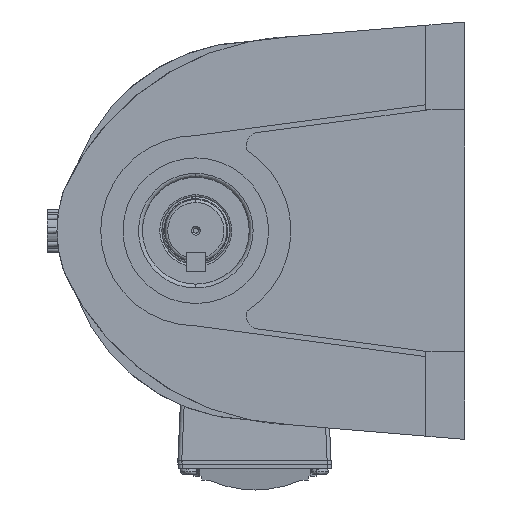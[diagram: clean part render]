
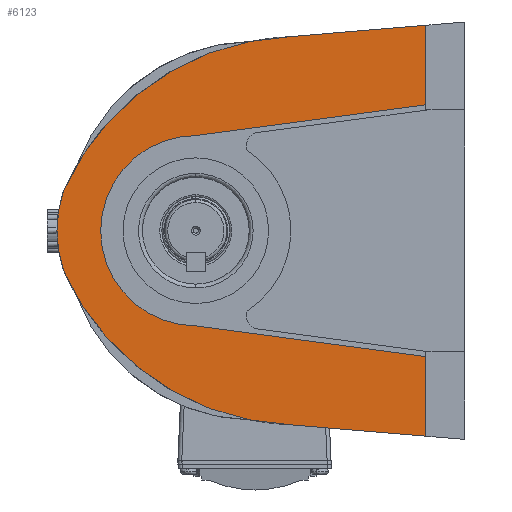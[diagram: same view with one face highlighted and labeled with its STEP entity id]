
A CAD part, left-side view. The second image highlights one B-rep face of the part: STEP entity #6123.
In plain terms, the highlighted planar face has unit normal (-1, 0, 0).
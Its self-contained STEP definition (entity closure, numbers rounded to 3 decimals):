
#632 = LINE ( 'NONE', #24110, #16438 ) ;
#790 = VERTEX_POINT ( 'NONE', #1918 ) ;
#810 = DIRECTION ( 'NONE',  ( 0., -0.991, -0.132 ) ) ;
#1105 = CARTESIAN_POINT ( 'NONE',  ( 13., 206.78, -20.204 ) ) ;
#1918 = CARTESIAN_POINT ( 'NONE',  ( 13., 206.78, 20.204 ) ) ;
#3257 = AXIS2_PLACEMENT_3D ( 'NONE', #82170, #81682, #81619 ) ;
#5070 = VECTOR ( 'NONE', #18327, 1000. ) ;
#5970 = CIRCLE ( 'NONE', #6458, 65. ) ;
#6123 = ADVANCED_FACE ( 'NONE', ( #63367 ), #81786, .F. ) ;
#6458 = AXIS2_PLACEMENT_3D ( 'NONE', #30843, #77007, #37501 ) ;
#6540 = CARTESIAN_POINT ( 'NONE',  ( 13., 0., -107.5 ) ) ;
#7991 = VERTEX_POINT ( 'NONE', #16165 ) ;
#11336 = ORIENTED_EDGE ( 'NONE', *, *, #45024, .F. ) ;
#16165 = CARTESIAN_POINT ( 'NONE',  ( 13., 20., 64.829 ) ) ;
#16438 = VECTOR ( 'NONE', #50565, 1000. ) ;
#17406 = AXIS2_PLACEMENT_3D ( 'NONE', #65871, #65778, #65758 ) ;
#17514 = EDGE_CURVE ( 'NONE', #34117, #18984, #18490, .T. ) ;
#18327 = DIRECTION ( 'NONE',  ( 0., 0.991, -0.132 ) ) ;
#18490 = CIRCLE ( 'NONE', #52503, 49. ) ;
#18984 = VERTEX_POINT ( 'NONE', #71089 ) ;
#19161 = EDGE_CURVE ( 'NONE', #790, #23414, #32131, .T. ) ;
#21437 = ORIENTED_EDGE ( 'NONE', *, *, #17514, .F. ) ;
#23323 = ORIENTED_EDGE ( 'NONE', *, *, #53853, .T. ) ;
#23414 = VERTEX_POINT ( 'NONE', #32948 ) ;
#24110 = CARTESIAN_POINT ( 'NONE',  ( 13., 0., 107.5 ) ) ;
#26781 = VECTOR ( 'NONE', #810, 1000. ) ;
#27400 = EDGE_CURVE ( 'NONE', #7991, #34117, #72789, .T. ) ;
#28984 = ORIENTED_EDGE ( 'NONE', *, *, #54950, .F. ) ;
#29578 = VERTEX_POINT ( 'NONE', #39833 ) ;
#29960 = AXIS2_PLACEMENT_3D ( 'NONE', #75545, #36084, #82218 ) ;
#30815 = CARTESIAN_POINT ( 'NONE',  ( 13., 20., 105.822 ) ) ;
#30843 = CARTESIAN_POINT ( 'NONE',  ( 13., 145., 0. ) ) ;
#32131 = CIRCLE ( 'NONE', #17406, 133.82 ) ;
#32948 = CARTESIAN_POINT ( 'NONE',  ( 13., 89.685, 99.974 ) ) ;
#34117 = VERTEX_POINT ( 'NONE', #74658 ) ;
#35066 = ORIENTED_EDGE ( 'NONE', *, *, #19161, .F. ) ;
#36084 = DIRECTION ( 'NONE',  ( 1., 0., 0. ) ) ;
#37234 = DIRECTION ( 'NONE',  ( 0., 0., -1. ) ) ;
#37330 = DIRECTION ( 'NONE',  ( -1., 0., 0. ) ) ;
#37501 = DIRECTION ( 'NONE',  ( 0., 0., 1. ) ) ;
#37522 = CARTESIAN_POINT ( 'NONE',  ( 13., 138.5, 0. ) ) ;
#37810 = EDGE_LOOP ( 'NONE', ( #11336, #28984, #67478, #70158, #43267, #21437, #70643, #67270, #23323, #35066 ) ) ;
#39833 = CARTESIAN_POINT ( 'NONE',  ( 13., 20., -105.822 ) ) ;
#39889 = VECTOR ( 'NONE', #46551, 1000. ) ;
#40479 = EDGE_CURVE ( 'NONE', #40629, #7991, #59491, .T. ) ;
#40629 = VERTEX_POINT ( 'NONE', #30815 ) ;
#41005 = CARTESIAN_POINT ( 'NONE',  ( 13., 138.5, -49. ) ) ;
#43267 = ORIENTED_EDGE ( 'NONE', *, *, #86051, .F. ) ;
#45024 = EDGE_CURVE ( 'NONE', #78641, #790, #5970, .T. ) ;
#45487 = VERTEX_POINT ( 'NONE', #67187 ) ;
#46551 = DIRECTION ( 'NONE',  ( 0., -0.996, -0.084 ) ) ;
#46599 = CIRCLE ( 'NONE', #29960, 133.82 ) ;
#46708 = DIRECTION ( 'NONE',  ( 0., 0., -1. ) ) ;
#46842 = CARTESIAN_POINT ( 'NONE',  ( 13., 20., -64.829 ) ) ;
#47331 = EDGE_CURVE ( 'NONE', #57871, #29578, #68510, .T. ) ;
#50565 = DIRECTION ( 'NONE',  ( 0., 0.996, -0.084 ) ) ;
#52503 = AXIS2_PLACEMENT_3D ( 'NONE', #37522, #37330, #37234 ) ;
#53853 = EDGE_CURVE ( 'NONE', #40629, #23414, #632, .T. ) ;
#54950 = EDGE_CURVE ( 'NONE', #45487, #78641, #46599, .T. ) ;
#57871 = VERTEX_POINT ( 'NONE', #46842 ) ;
#57948 = DIRECTION ( 'NONE',  ( 0., 0., -1. ) ) ;
#58149 = CARTESIAN_POINT ( 'NONE',  ( 13., 20., 64.829 ) ) ;
#59491 = LINE ( 'NONE', #59705, #59640 ) ;
#59549 = LINE ( 'NONE', #6540, #39889 ) ;
#59640 = VECTOR ( 'NONE', #46708, 1000. ) ;
#59705 = CARTESIAN_POINT ( 'NONE',  ( 13., 20., 0. ) ) ;
#59706 = CARTESIAN_POINT ( 'NONE',  ( 13., 20., 0. ) ) ;
#59963 = LINE ( 'NONE', #41005, #26781 ) ;
#60313 = EDGE_CURVE ( 'NONE', #45487, #29578, #59549, .T. ) ;
#63367 = FACE_OUTER_BOUND ( 'NONE', #37810, .T. ) ;
#65758 = DIRECTION ( 'NONE',  ( 0., 0., 1. ) ) ;
#65778 = DIRECTION ( 'NONE',  ( 1., 0., 0. ) ) ;
#65871 = CARTESIAN_POINT ( 'NONE',  ( 13., 84.313, -33.738 ) ) ;
#67187 = CARTESIAN_POINT ( 'NONE',  ( 13., 89.685, -99.974 ) ) ;
#67270 = ORIENTED_EDGE ( 'NONE', *, *, #40479, .F. ) ;
#67478 = ORIENTED_EDGE ( 'NONE', *, *, #60313, .T. ) ;
#68510 = LINE ( 'NONE', #59706, #86108 ) ;
#70158 = ORIENTED_EDGE ( 'NONE', *, *, #47331, .F. ) ;
#70643 = ORIENTED_EDGE ( 'NONE', *, *, #27400, .F. ) ;
#71089 = CARTESIAN_POINT ( 'NONE',  ( 13., 138.5, -49. ) ) ;
#72789 = LINE ( 'NONE', #58149, #5070 ) ;
#74658 = CARTESIAN_POINT ( 'NONE',  ( 13., 138.5, 49. ) ) ;
#75545 = CARTESIAN_POINT ( 'NONE',  ( 13., 84.313, 33.738 ) ) ;
#77007 = DIRECTION ( 'NONE',  ( 1., 0., 0. ) ) ;
#78641 = VERTEX_POINT ( 'NONE', #1105 ) ;
#81619 = DIRECTION ( 'NONE',  ( 0., 0., -1. ) ) ;
#81682 = DIRECTION ( 'NONE',  ( 1., 0., 0. ) ) ;
#81786 = PLANE ( 'NONE',  #3257 ) ;
#82170 = CARTESIAN_POINT ( 'NONE',  ( 13., 0., 0. ) ) ;
#82218 = DIRECTION ( 'NONE',  ( 0., 0., 1. ) ) ;
#86051 = EDGE_CURVE ( 'NONE', #18984, #57871, #59963, .T. ) ;
#86108 = VECTOR ( 'NONE', #57948, 1000. ) ;
